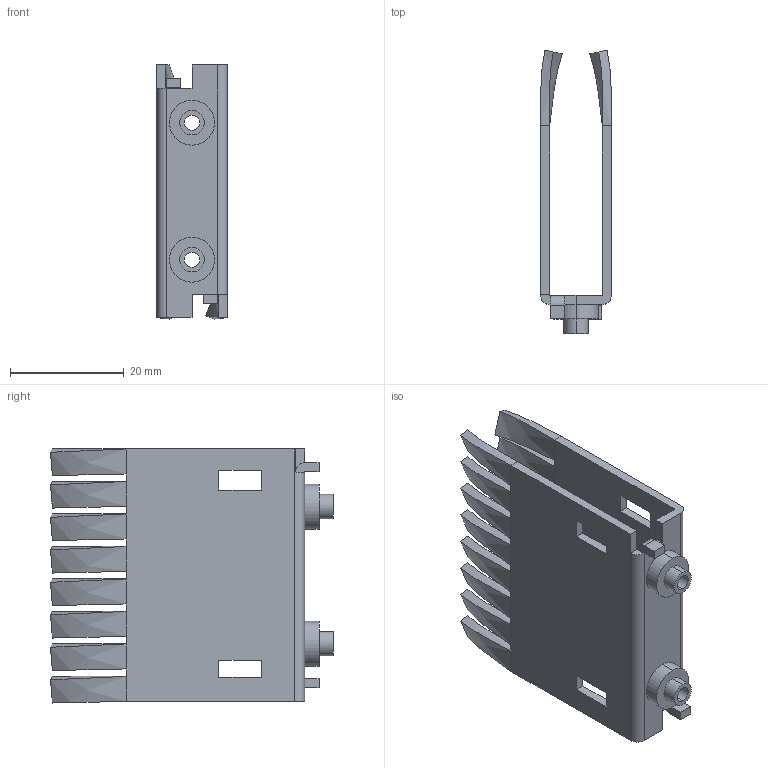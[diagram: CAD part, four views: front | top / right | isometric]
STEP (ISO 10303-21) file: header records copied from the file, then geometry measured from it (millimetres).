
FILE_DESCRIPTION (( 'STEP AP214' ), '1' );
FILE_NAME ('CUI_DEVICES_HSS08-B18-CP.step', '2021-12-18T19:31:12', ( '' ), ( '' ), 'SwSTEP 2.0', 'SolidWorks 2021', '' );
FILE_SCHEMA (( 'AUTOMOTIVE_DESIGN' ));
Length unit declared in the file: inch
Products named in the file (1): CUI_DEVICES_HSS08-B18-CP
Bounding box: 12.5 x 49.83 x 44.73 mm (x, y, z)
Volume: 6561.3 mm3; surface area: 9652.2 mm2
Topology: 3 solids, 3 shells, 174 faces, 412 edges, 248 vertices
Faces by surface type: plane 82, bspline 64, cylinder 28
Entity records: 7596 total; most frequent: CARTESIAN_POINT 3779, ORIENTED_EDGE 824, DIRECTION 626, EDGE_CURVE 412, VECTOR 292, LINE 292, VERTEX_POINT 248, EDGE_LOOP 194
